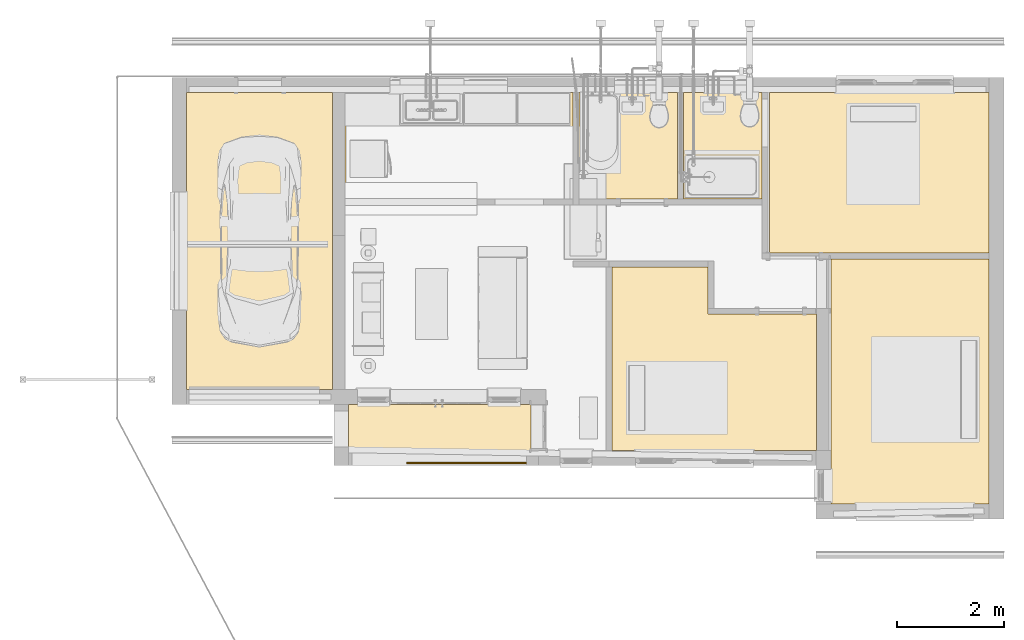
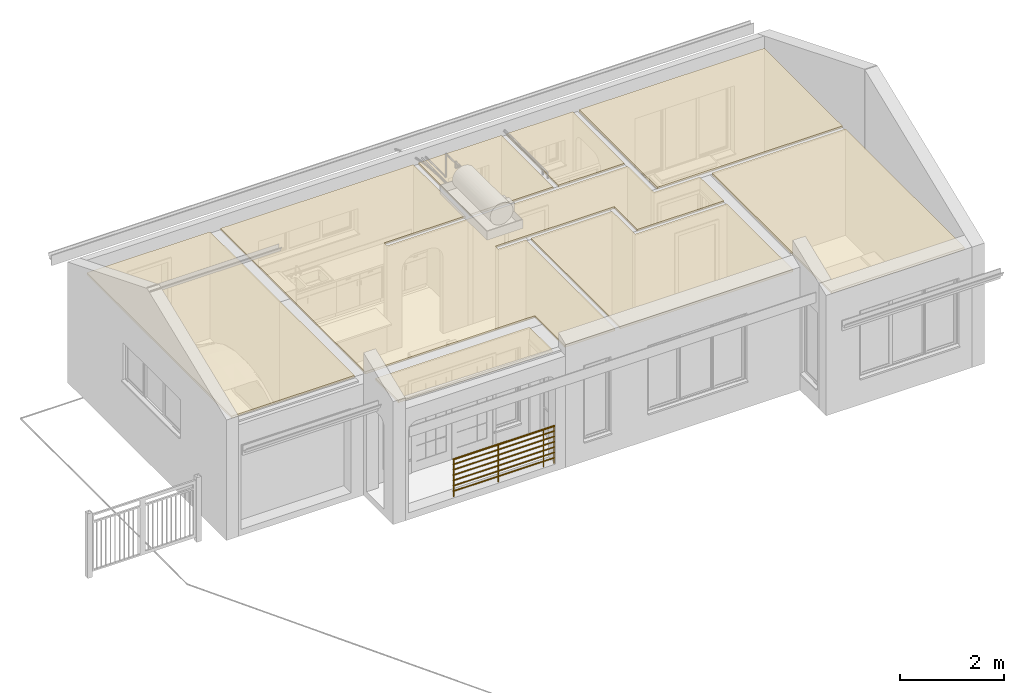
# One storey, part 13 of 41: 8 coverings, 1 railing.
"""IFC2X3 building model written with IfcOpenShell, lengths in millimetres."""

from ifc_helpers import new_model, entity, si_unit, converted_unit, derived_unit, direction, frame, frame_2d, origin, origin_2d_with_axis, place, context, subcontext, project, spatial, polyline, rectangle, circle, outline, extrude, material, layer, layer_set, layer_usage, element, save


model = new_model("IFC2X3")

# Units and contexts
model_context = context("Model", 3, precision=0.01, world=origin(), true_north=direction((6.12303176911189e-17, 1.0)))
body_context = subcontext(model_context, "Body", "Model", "MODEL_VIEW")
ifc_project = project(units=[si_unit("LENGTHUNIT", "METRE", prefix="MILLI"), si_unit("AREAUNIT", "SQUARE_METRE"), si_unit("VOLUMEUNIT", "CUBIC_METRE"), converted_unit("PLANEANGLEUNIT", "DEGREE", entity("IfcRatioMeasure", 0.0174532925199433), si_unit("PLANEANGLEUNIT", "RADIAN"), dimensions=[0, 0, 0, 0, 0, 0, 0]), si_unit("MASSUNIT", "GRAM", prefix="KILO"), derived_unit("MASSDENSITYUNIT", [(si_unit("MASSUNIT", "GRAM", prefix="KILO"), 1), (si_unit("LENGTHUNIT", "METRE"), -3)]), si_unit("TIMEUNIT", "SECOND"), si_unit("FREQUENCYUNIT", "HERTZ"), si_unit("THERMODYNAMICTEMPERATUREUNIT", "DEGREE_CELSIUS"), derived_unit("THERMALTRANSMITTANCEUNIT", [(si_unit("MASSUNIT", "GRAM", prefix="KILO"), 1), (si_unit("THERMODYNAMICTEMPERATUREUNIT", "KELVIN"), -1), (si_unit("TIMEUNIT", "SECOND"), -3)]), derived_unit("VOLUMETRICFLOWRATEUNIT", [(si_unit("LENGTHUNIT", "METRE"), 3), (si_unit("TIMEUNIT", "SECOND"), -1)]), si_unit("ELECTRICCURRENTUNIT", "AMPERE"), si_unit("ELECTRICVOLTAGEUNIT", "VOLT"), si_unit("POWERUNIT", "WATT"), si_unit("FORCEUNIT", "NEWTON", prefix="KILO"), si_unit("ILLUMINANCEUNIT", "LUX"), si_unit("LUMINOUSFLUXUNIT", "LUMEN"), si_unit("LUMINOUSINTENSITYUNIT", "CANDELA"), derived_unit("USERDEFINED", [(si_unit("MASSUNIT", "GRAM", prefix="KILO"), -1), (si_unit("LENGTHUNIT", "METRE"), -2), (si_unit("TIMEUNIT", "SECOND"), 3), (si_unit("LUMINOUSFLUXUNIT", "LUMEN"), 1)]), derived_unit("LINEARVELOCITYUNIT", [(si_unit("LENGTHUNIT", "METRE"), 1), (si_unit("TIMEUNIT", "SECOND"), -1)]), si_unit("PRESSUREUNIT", "PASCAL"), derived_unit("USERDEFINED", [(si_unit("LENGTHUNIT", "METRE"), -2), (si_unit("MASSUNIT", "GRAM", prefix="KILO"), 1), (si_unit("TIMEUNIT", "SECOND"), -2)])], contexts=[model_context])

# Site, building, storey
site_placement = place(None, origin())
site = spatial("IfcSite", under=ifc_project, at=site_placement, Name="Surface", CompositionType="ELEMENT")
building_placement = place(site_placement, origin())
building = spatial("IfcBuilding", under=site, at=building_placement, CompositionType="ELEMENT")
storey_placement = place(building_placement, frame((0.0, 0.0, 300.0)))
storey = spatial("IfcBuildingStorey", under=building, at=storey_placement, Name="F.F.L", CompositionType="ELEMENT", Elevation=300.0)

# Coverings
ifc_material_1 = material(Name="Default")
ifc_layer_1 = layer(ifc_material_1, 36.0)
ifc_material_2 = material(Name="Gypsum Wall Board (1)")
ifc_layer_2 = layer(ifc_material_2, 16.0)
ifc_layer_set = layer_set([ifc_layer_1, ifc_layer_2], Name="Compound Ceiling:600 x 1200mm grid")
ifc_layer_usage_1 = layer_usage(ifc_layer_set, "AXIS3", "POSITIVE", 0.0)
covering_1_placement = place(storey_placement, origin())
element("IfcCovering", 1, at=covering_1_placement, inside=storey, material=ifc_layer_usage_1, Name="Compound Ceiling:600 x 1200mm grid", ObjectType="Compound Ceiling:600 x 1200mm grid", PredefinedType="CEILING", context=body_context, shape_type="SweptSolid", body=[
    extrude(rectangle(XDim=2730.00000000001, YDim=5545.0, at=frame_2d((-1.02318153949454e-12, 0.0), x_axis=(1.0, 0.0))), frame((-10451.8751700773, 7773.34008915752, 2445.0), z_axis=(0.0, 0.0, 1.0), x_axis=(-1.0, 0.0, 0.0)), (0.0, 0.0, 1.0), 52.0000000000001),
])
ifc_layer_usage_2 = layer_usage(ifc_layer_set, "AXIS3", "POSITIVE", 0.0)
covering_2_placement = place(storey_placement, origin())
element("IfcCovering", 2, at=covering_2_placement, inside=storey, material=ifc_layer_usage_2, Name="Compound Ceiling:600 x 1200mm grid", ObjectType="Compound Ceiling:600 x 1200mm grid", PredefinedType="CEILING", context=body_context, shape_type="SweptSolid", body=[
    extrude(rectangle(XDim=1840.0, YDim=1989.99999999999, at=frame_2d((0.0, -5.11590769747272e-13), x_axis=(1.0, 0.0))), frame((-3556.87517007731, 9550.8400891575, 2445.0), z_axis=(0.0, 0.0, 1.0), x_axis=(-1.0, 0.0, 0.0)), (0.0, 0.0, 1.0), 52.0000000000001),
])
ifc_layer_usage_3 = layer_usage(ifc_layer_set, "AXIS3", "POSITIVE", 0.0)
covering_3_placement = place(storey_placement, origin())
element("IfcCovering", 3, at=covering_3_placement, inside=storey, material=ifc_layer_usage_3, Name="Compound Ceiling:600 x 1200mm grid", ObjectType="Compound Ceiling:600 x 1200mm grid", PredefinedType="CEILING", context=body_context, shape_type="SweptSolid", body=[
    extrude(rectangle(XDim=870.000000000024, YDim=3410.00000000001, at=frame_2d((-2.41584530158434e-12, 2.72848410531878e-12), x_axis=(1.0, 0.0))), frame((-7081.8751700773, 4285.84008915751, 2445.0), z_axis=(0.0, 0.0, 1.0), x_axis=(0.0, 1.0, 0.0)), (0.0, 0.0, 1.0), 52.0000000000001),
])
ifc_layer_usage_4 = layer_usage(ifc_layer_set, "AXIS3", "POSITIVE", 0.0)
covering_4_placement = place(storey_placement, origin())
element("IfcCovering", 4, at=covering_4_placement, inside=storey, material=ifc_layer_usage_4, Name="Compound Ceiling:600 x 1200mm grid", ObjectType="Compound Ceiling:600 x 1200mm grid", PredefinedType="CEILING", context=body_context, shape_type="SweptSolid", body=[
    extrude(rectangle(XDim=4100.0, YDim=3000.0, at=origin_2d_with_axis()), frame((1133.12482992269, 9045.84008915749, 2445.0), z_axis=(0.0, 0.0, 1.0), x_axis=(-1.0, 0.0, 0.0)), (0.0, 0.0, 1.0), 52.0000000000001),
])
ifc_layer_usage_5 = layer_usage(ifc_layer_set, "AXIS3", "POSITIVE", 0.0)
covering_5_placement = place(storey_placement, origin())
element("IfcCovering", 5, at=covering_5_placement, inside=storey, material=ifc_layer_usage_5, Name="Compound Ceiling:600 x 1200mm grid", ObjectType="Compound Ceiling:600 x 1200mm grid", PredefinedType="CEILING", context=body_context, shape_type="SweptSolid", body=[
    extrude(rectangle(XDim=2950.00000000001, YDim=4575.00000000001, at=frame_2d((-2.27373675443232e-13, -4.77484718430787e-12), x_axis=(1.0, 0.0))), frame((1708.1248299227, 5148.34008915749, 2445.0), z_axis=(0.0, 0.0, 1.0), x_axis=(-1.0, 0.0, 0.0)), (0.0, 0.0, 1.0), 52.0000000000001),
])
ifc_layer_usage_6 = layer_usage(ifc_layer_set, "AXIS3", "POSITIVE", 0.0)
covering_6_placement = place(storey_placement, origin())
element("IfcCovering", 6, at=covering_6_placement, inside=storey, material=ifc_layer_usage_6, Name="Compound Ceiling:600 x 1200mm grid", ObjectType="Compound Ceiling:600 x 1200mm grid", PredefinedType="CEILING", context=body_context, shape_type="SweptSolid", body=[
    extrude(outline(polyline([(-1953.33333333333, 555.0), (-1953.33333333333, -1990.0), (1876.66666666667, -1990.0), (1876.66666666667, 1435.0), (76.6666666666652, 1435.0), (76.6666666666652, 555.0), (-1953.33333333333, 555.0)])), frame((-1990.20850341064, 5850.84008915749, 2445.0), z_axis=(0.0, 0.0, -1.0), x_axis=(-1.0, 0.0, 0.0)), (0.0, 0.0, -1.0), 52.0000000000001),
])
ifc_layer_usage_7 = layer_usage(ifc_layer_set, "AXIS3", "POSITIVE", 0.0)
covering_7_placement = place(storey_placement, origin())
element("IfcCovering", 7, at=covering_7_placement, inside=storey, material=ifc_layer_usage_7, Name="Compound Ceiling:600 x 1200mm grid", ObjectType="Compound Ceiling:600 x 1200mm grid", PredefinedType="CEILING", context=body_context, shape_type="SweptSolid", body=[
    extrude(outline(polyline([(-83.3333333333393, 58.8888888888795), (-83.3333333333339, -3366.11111111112), (1036.66666666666, -3366.11111111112), (1036.66666666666, -2226.11111111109), (4796.66666666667, -2226.11111111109), (4796.66666666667, 3318.88888888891), (526.666666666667, 3318.88888888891), (526.666666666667, 1328.88888888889), (2326.66666666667, 1328.88888888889), (2326.66666666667, 1218.8888888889), (-3003.33333333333, 1218.8888888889), (-3003.33333333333, 208.888888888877), (-4023.33333333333, 208.888888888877), (-4023.33333333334, -711.111111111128), (-2103.33333333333, -711.111111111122), (-2103.33333333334, 168.888888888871), (526.666666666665, 168.888888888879), (526.666666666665, 58.8888888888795), (-83.3333333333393, 58.8888888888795)])), frame((-4060.20850341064, 7226.95120026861, 2445.0), z_axis=(0.0, 0.0, -1.0), x_axis=(-1.0, 0.0, 0.0)), (0.0, 0.0, -1.0), 52.0000000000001),
])
ifc_layer_usage_8 = layer_usage(ifc_layer_set, "AXIS3", "POSITIVE", 0.0)
covering_8_placement = place(storey_placement, origin())
element("IfcCovering", 8, at=covering_8_placement, inside=storey, material=ifc_layer_usage_8, Name="Compound Ceiling:600 x 1200mm grid", ObjectType="Compound Ceiling:600 x 1200mm grid", PredefinedType="CEILING", context=body_context, shape_type="SweptSolid", body=[
    extrude(rectangle(XDim=1470.0, YDim=1989.99999999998, at=frame_2d((0.0, 5.6843418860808e-13), x_axis=(1.0, 0.0))), frame((-1791.8751700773, 9550.84008915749, 2445.0), z_axis=(0.0, 0.0, 1.0), x_axis=(-1.0, 0.0, 0.0)), (0.0, 0.0, 1.0), 52.0000000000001),
])

# Railing
railing_placement = place(storey_placement, origin())
element("IfcRailing", 9, at=railing_placement, inside=storey, Name="Railing:900mm Pipe", ObjectType="Railing:900mm Pipe", PredefinedType="NOTDEFINED", context=body_context, shape_type="SweptSolid", body=[
    extrude(circle(Radius=12.5, at=origin_2d_with_axis()), frame((-5704.3751700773, 3623.3400891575, 0.0), z_axis=(0.0, 0.0, 1.0), x_axis=(0.0, 1.0, 0.0)), (0.0, 0.0, 1.0), 859.999999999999),
    extrude(circle(Radius=12.5, at=origin_2d_with_axis()), frame((-6704.3751700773, 3623.34008915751, 0.0), z_axis=(0.0, 0.0, 1.0), x_axis=(0.0, 1.0, 0.0)), (0.0, 0.0, 1.0), 859.999999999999),
    extrude(circle(Radius=12.5, at=origin_2d_with_axis()), frame((-5469.37517007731, 3623.3400891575, 0.0), z_axis=(0.0, 0.0, 1.0), x_axis=(0.0, 1.0, 0.0)), (0.0, 0.0, 1.0), 859.999999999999),
    extrude(circle(Radius=12.5, at=origin_2d_with_axis()), frame((-7691.8751700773, 3623.34008915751, 0.0), z_axis=(0.0, 0.0, 1.0), x_axis=(0.0, 1.0, 0.0)), (0.0, 0.0, 1.0), 859.999999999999),
    extrude(circle(Radius=15.0, at=origin_2d_with_axis()), frame((-7704.3751700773, 3623.34008915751, 760.0), z_axis=(1.0, 0.0, 0.0), x_axis=(0.0, -1.0, 0.0)), (0.0, 0.0, 1.0), 2247.49999999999),
    extrude(circle(Radius=15.0, at=origin_2d_with_axis()), frame((-7704.3751700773, 3623.34008915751, 635.0), z_axis=(1.0, 0.0, 0.0), x_axis=(0.0, -1.0, 0.0)), (0.0, 0.0, 1.0), 2247.49999999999),
    extrude(circle(Radius=15.0, at=origin_2d_with_axis()), frame((-7704.3751700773, 3623.34008915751, 510.0), z_axis=(1.0, 0.0, 0.0), x_axis=(0.0, -1.0, 0.0)), (0.0, 0.0, 1.0), 2247.49999999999),
    extrude(circle(Radius=15.0, at=origin_2d_with_axis()), frame((-7704.3751700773, 3623.34008915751, 385.0), z_axis=(1.0, 0.0, 0.0), x_axis=(0.0, -1.0, 0.0)), (0.0, 0.0, 1.0), 2247.49999999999),
    extrude(circle(Radius=15.0, at=origin_2d_with_axis()), frame((-7704.3751700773, 3623.34008915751, 260.0), z_axis=(1.0, 0.0, 0.0), x_axis=(0.0, -1.0, 0.0)), (0.0, 0.0, 1.0), 2247.49999999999),
    extrude(circle(Radius=15.0, at=origin_2d_with_axis()), frame((-7704.3751700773, 3623.34008915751, 135.0), z_axis=(1.0, 0.0, 0.0), x_axis=(0.0, -1.0, 0.0)), (0.0, 0.0, 1.0), 2247.49999999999),
    extrude(circle(Radius=20.0, at=origin_2d_with_axis()), frame((-7704.3751700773, 3623.34008915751, 880.0), z_axis=(1.0, 0.0, 0.0), x_axis=(0.0, 1.0, 0.0)), (0.0, 0.0, 1.0), 2247.49999999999),
])

save(model, "model.ifc")
